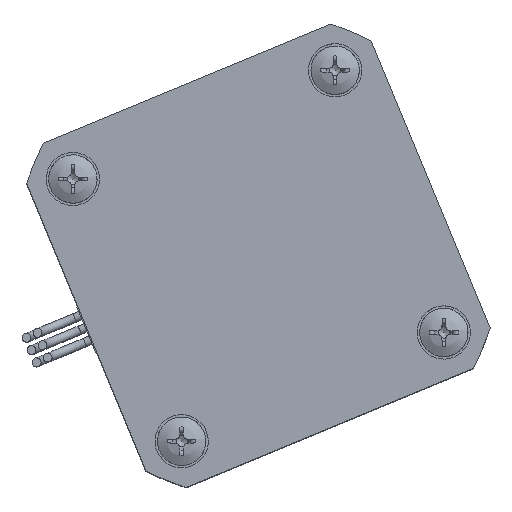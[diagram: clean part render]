
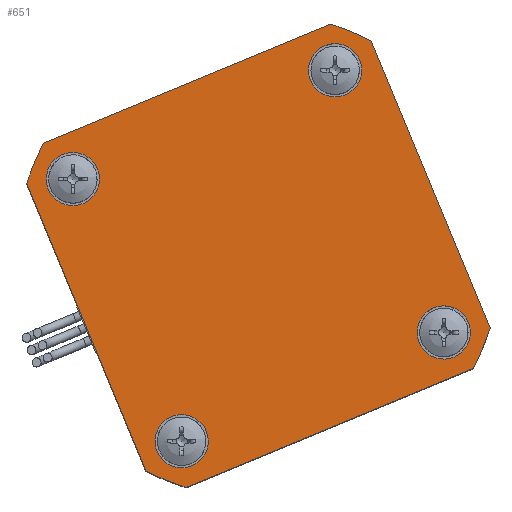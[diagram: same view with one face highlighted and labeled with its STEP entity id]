
A CAD part, top view. The second image highlights one B-rep face of the part: STEP entity #651.
In plain terms, the highlighted planar face has unit normal (0, 0, 1) as drawn and (0, 0, -1) by its records, which use the part's own axes.
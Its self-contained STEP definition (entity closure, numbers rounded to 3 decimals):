
#173=LINE('',#12730,#257);
#193=LINE('',#12771,#277);
#201=LINE('',#12791,#285);
#213=LINE('',#12819,#297);
#257=VECTOR('',#2805,1.);
#277=VECTOR('',#2827,1.);
#285=VECTOR('',#2843,1.);
#297=VECTOR('',#2863,1.);
#446=PLANE('',#2491);
#651=ADVANCED_FACE('',(#848,#849,#850,#851,#852),#446,.F.);
#848=FACE_BOUND('',#991,.T.);
#849=FACE_BOUND('',#992,.T.);
#850=FACE_BOUND('',#993,.T.);
#851=FACE_BOUND('',#994,.T.);
#852=FACE_BOUND('',#995,.T.);
#991=EDGE_LOOP('',(#1333));
#992=EDGE_LOOP('',(#1334));
#993=EDGE_LOOP('',(#1335));
#994=EDGE_LOOP('',(#1336));
#995=EDGE_LOOP('',(#1337,#1338,#1339,#1340,#1341,#1342,#1343,#1344));
#1333=ORIENTED_EDGE('',*,*,#2096,.T.);
#1334=ORIENTED_EDGE('',*,*,#2097,.T.);
#1335=ORIENTED_EDGE('',*,*,#2098,.T.);
#1336=ORIENTED_EDGE('',*,*,#2099,.T.);
#1337=ORIENTED_EDGE('',*,*,#2062,.F.);
#1338=ORIENTED_EDGE('',*,*,#2071,.F.);
#1339=ORIENTED_EDGE('',*,*,#2048,.F.);
#1340=ORIENTED_EDGE('',*,*,#2079,.F.);
#1341=ORIENTED_EDGE('',*,*,#2018,.F.);
#1342=ORIENTED_EDGE('',*,*,#2077,.F.);
#1343=ORIENTED_EDGE('',*,*,#2038,.F.);
#1344=ORIENTED_EDGE('',*,*,#2073,.F.);
#1796=VERTEX_POINT('',#12729);
#1797=VERTEX_POINT('',#12731);
#1816=VERTEX_POINT('',#12770);
#1817=VERTEX_POINT('',#12772);
#1824=VERTEX_POINT('',#12790);
#1825=VERTEX_POINT('',#12792);
#1836=VERTEX_POINT('',#12818);
#1837=VERTEX_POINT('',#12820);
#1855=VERTEX_POINT('',#13024);
#1856=VERTEX_POINT('',#13026);
#1857=VERTEX_POINT('',#13028);
#1858=VERTEX_POINT('',#13030);
#2018=EDGE_CURVE('',#1796,#1797,#173,.T.);
#2038=EDGE_CURVE('',#1816,#1817,#193,.T.);
#2048=EDGE_CURVE('',#1824,#1825,#201,.T.);
#2062=EDGE_CURVE('',#1836,#1837,#213,.T.);
#2071=EDGE_CURVE('',#1825,#1836,#2297,.T.);
#2073=EDGE_CURVE('',#1837,#1816,#2299,.T.);
#2077=EDGE_CURVE('',#1817,#1796,#2303,.T.);
#2079=EDGE_CURVE('',#1797,#1824,#2305,.T.);
#2096=EDGE_CURVE('',#1855,#1855,#2314,.T.);
#2097=EDGE_CURVE('',#1856,#1856,#2315,.T.);
#2098=EDGE_CURVE('',#1857,#1857,#2316,.T.);
#2099=EDGE_CURVE('',#1858,#1858,#2317,.T.);
#2297=CIRCLE('',#2463,27.35);
#2299=CIRCLE('',#2466,27.35);
#2303=CIRCLE('',#2472,27.35);
#2305=CIRCLE('',#2475,27.35);
#2314=CIRCLE('',#2487,3.);
#2315=CIRCLE('',#2488,3.);
#2316=CIRCLE('',#2489,3.);
#2317=CIRCLE('',#2490,3.);
#2463=AXIS2_PLACEMENT_3D('',#12836,#2875,#2876);
#2466=AXIS2_PLACEMENT_3D('',#12839,#2881,#2882);
#2472=AXIS2_PLACEMENT_3D('',#12845,#2893,#2894);
#2475=AXIS2_PLACEMENT_3D('',#12848,#2899,#2900);
#2487=AXIS2_PLACEMENT_3D('',#13023,#2923,#2924);
#2488=AXIS2_PLACEMENT_3D('',#13025,#2925,#2926);
#2489=AXIS2_PLACEMENT_3D('',#13027,#2927,#2928);
#2490=AXIS2_PLACEMENT_3D('',#13029,#2929,#2930);
#2491=AXIS2_PLACEMENT_3D('',#13031,#2931,#2932);
#2805=DIRECTION('',(-1.,0.,0.));
#2827=DIRECTION('',(0.,1.,0.));
#2843=DIRECTION('',(0.,-1.,0.));
#2863=DIRECTION('',(1.,0.,0.));
#2875=DIRECTION('',(0.,0.,1.));
#2876=DIRECTION('',(1.,0.,0.));
#2881=DIRECTION('',(0.,0.,1.));
#2882=DIRECTION('',(1.,0.,0.));
#2893=DIRECTION('',(0.,0.,1.));
#2894=DIRECTION('',(1.,0.,0.));
#2899=DIRECTION('',(0.,0.,1.));
#2900=DIRECTION('',(1.,0.,0.));
#2923=DIRECTION('',(0.,0.,1.));
#2924=DIRECTION('',(0.,1.,0.));
#2925=DIRECTION('',(0.,0.,1.));
#2926=DIRECTION('',(1.,0.,0.));
#2927=DIRECTION('',(0.,0.,1.));
#2928=DIRECTION('',(0.,-1.,0.));
#2929=DIRECTION('',(0.,0.,1.));
#2930=DIRECTION('',(-1.,0.,0.));
#2931=DIRECTION('',(0.,0.,1.));
#2932=DIRECTION('',(1.,0.,0.));
#12729=CARTESIAN_POINT('',(17.522,21.,0.));
#12730=CARTESIAN_POINT('',(17.522,21.,0.));
#12731=CARTESIAN_POINT('',(-17.522,21.,0.));
#12770=CARTESIAN_POINT('',(21.,-17.522,0.));
#12771=CARTESIAN_POINT('',(21.,-17.522,0.));
#12772=CARTESIAN_POINT('',(21.,17.522,0.));
#12790=CARTESIAN_POINT('',(-21.,17.522,0.));
#12791=CARTESIAN_POINT('',(-21.,17.522,0.));
#12792=CARTESIAN_POINT('',(-21.,-17.522,0.));
#12818=CARTESIAN_POINT('',(-17.522,-21.,0.));
#12819=CARTESIAN_POINT('',(-17.522,-21.,0.));
#12820=CARTESIAN_POINT('',(17.522,-21.,0.));
#12836=CARTESIAN_POINT('',(0.,0.,0.));
#12839=CARTESIAN_POINT('',(0.,0.,0.));
#12845=CARTESIAN_POINT('',(0.,0.,0.));
#12848=CARTESIAN_POINT('',(0.,0.,0.));
#13023=CARTESIAN_POINT('',(-16.,16.,0.));
#13024=CARTESIAN_POINT('',(-16.,19.,0.));
#13025=CARTESIAN_POINT('',(16.,16.,0.));
#13026=CARTESIAN_POINT('',(19.,16.,0.));
#13027=CARTESIAN_POINT('',(16.,-16.,0.));
#13028=CARTESIAN_POINT('',(16.,-19.,0.));
#13029=CARTESIAN_POINT('',(-16.,-16.,0.));
#13030=CARTESIAN_POINT('',(-19.,-16.,0.));
#13031=CARTESIAN_POINT('',(0.,0.,0.));
